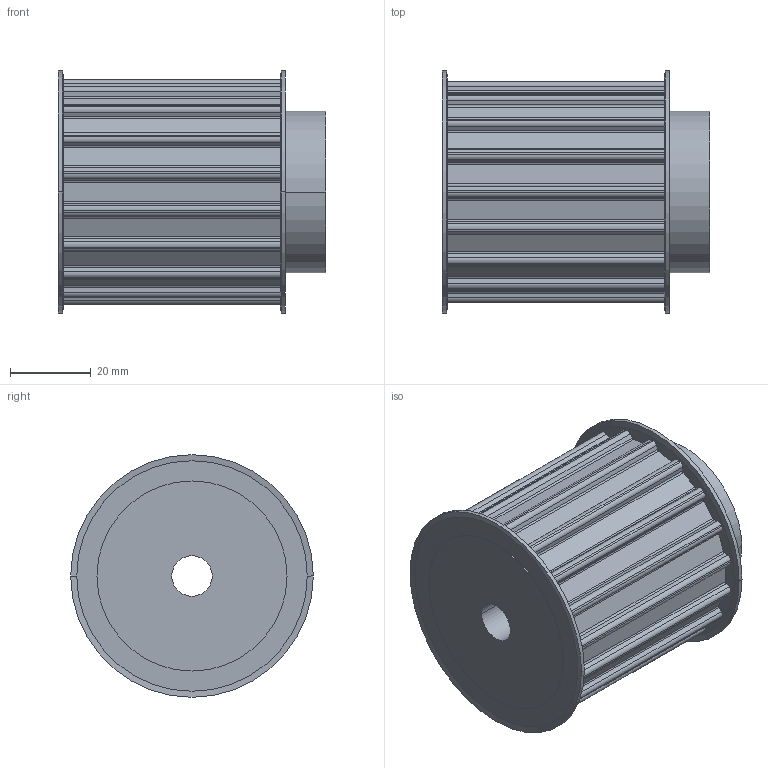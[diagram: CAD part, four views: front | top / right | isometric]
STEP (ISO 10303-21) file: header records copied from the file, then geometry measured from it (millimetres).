
FILE_DESCRIPTION( ( '' ), '1' );
FILE_NAME( 'C:/Users/Stangenbergd/Documents/CAD_Step/1/16851800.stp', '2021-10-19T09:50:26', ( '' ), ( '' ), ' ', ' ', ' ' );
FILE_SCHEMA( ( 'CONFIG_CONTROL_DESIGN' ) );
Length unit declared in the file: millimetre
Products named in the file (1): 1
Bounding box: 66.06 x 60 x 60 mm (x, y, z)
Volume: 128965 mm3; surface area: 21922.1 mm2
Topology: 1 solids, 1 shells, 171 faces, 484 edges, 320 vertices
Faces by surface type: cylinder 102, plane 61, cone 8
Entity records: 5674 total; most frequent: DIRECTION 1040, CARTESIAN_POINT 976, ORIENTED_EDGE 968, EDGE_CURVE 484, AXIS2_PLACEMENT_3D 384, VERTEX_POINT 320, LINE 272, VECTOR 272
